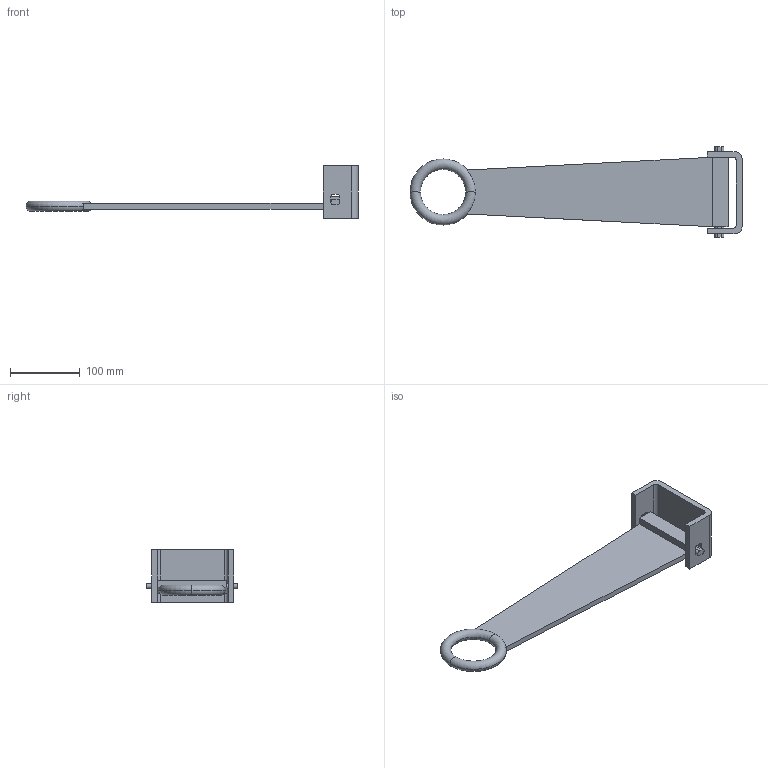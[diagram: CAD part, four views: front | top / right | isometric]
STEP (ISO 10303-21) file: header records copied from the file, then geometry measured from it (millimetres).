
FILE_DESCRIPTION (( 'STEP AP214' ), '1' );
FILE_NAME ('015.300.017.STEP', '2021-12-07T08:31:55', ( '' ), ( '' ), 'SwSTEP 2.0', 'SolidWorks 2018', '' );
FILE_SCHEMA (( 'AUTOMOTIVE_DESIGN' ));
Length unit declared in the file: millimetre
Products named in the file (4): 015.300.003_2-copia; 015.300.003 - Copia; 015.300.003_3; 015.300.017
Assembly tree (3 placements, depth 3):
  015.300.017
    015.300.003 - Copia
      015.300.003_2-copia
      015.300.003_3
Bounding box: 477.51 x 130 x 75 mm (x, y, z)
Volume: 430747.2 mm3; surface area: 117678.9 mm2
Topology: 3 solids, 3 shells, 55 faces, 141 edges, 92 vertices
Faces by surface type: plane 33, cylinder 16, torus 6
Entity records: 1851 total; most frequent: CARTESIAN_POINT 321, DIRECTION 308, ORIENTED_EDGE 282, EDGE_CURVE 141, AXIS2_PLACEMENT_3D 107, VECTOR 94, LINE 94, VERTEX_POINT 92
